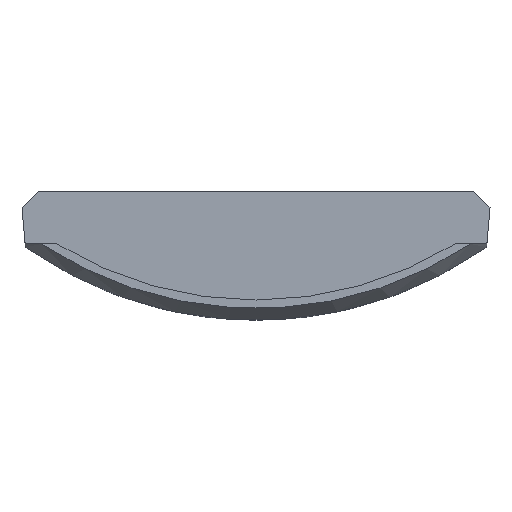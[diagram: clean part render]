
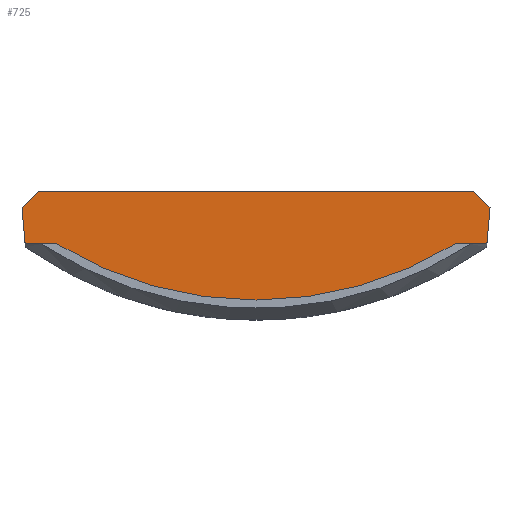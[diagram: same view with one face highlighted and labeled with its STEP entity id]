
A CAD part, top view. The second image highlights one B-rep face of the part: STEP entity #725.
In plain terms, the highlighted planar face has unit normal (0, 0, 1).
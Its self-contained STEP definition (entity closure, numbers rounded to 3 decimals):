
#33=CIRCLE('',#785,49.545);
#34=CIRCLE('',#786,47.5);
#35=CIRCLE('',#787,49.545);
#56=FACE_OUTER_BOUND('',#94,.T.);
#94=EDGE_LOOP('',(#510,#511,#512,#513,#514,#515,#516,#517,#518,#519));
#130=LINE('',#1037,#212);
#138=LINE('',#1055,#220);
#155=LINE('',#1090,#237);
#161=LINE('',#1102,#243);
#162=LINE('',#1106,#244);
#163=LINE('',#1110,#245);
#164=LINE('',#1113,#246);
#212=VECTOR('',#839,10.);
#220=VECTOR('',#851,10.);
#237=VECTOR('',#876,10.);
#243=VECTOR('',#884,10.);
#244=VECTOR('',#887,10.);
#245=VECTOR('',#890,10.);
#246=VECTOR('',#893,10.);
#294=VERTEX_POINT('',#1034);
#295=VERTEX_POINT('',#1036);
#302=VERTEX_POINT('',#1052);
#303=VERTEX_POINT('',#1054);
#322=VERTEX_POINT('',#1101);
#323=VERTEX_POINT('',#1103);
#324=VERTEX_POINT('',#1105);
#325=VERTEX_POINT('',#1107);
#326=VERTEX_POINT('',#1109);
#327=VERTEX_POINT('',#1111);
#366=EDGE_CURVE('',#295,#294,#130,.T.);
#374=EDGE_CURVE('',#303,#302,#138,.T.);
#392=EDGE_CURVE('',#295,#302,#155,.T.);
#398=EDGE_CURVE('',#294,#322,#161,.T.);
#399=EDGE_CURVE('',#323,#322,#33,.T.);
#400=EDGE_CURVE('',#324,#323,#162,.T.);
#401=EDGE_CURVE('',#325,#324,#34,.T.);
#402=EDGE_CURVE('',#325,#326,#163,.T.);
#403=EDGE_CURVE('',#327,#326,#35,.T.);
#404=EDGE_CURVE('',#303,#327,#164,.T.);
#510=ORIENTED_EDGE('',*,*,#366,.T.);
#511=ORIENTED_EDGE('',*,*,#398,.T.);
#512=ORIENTED_EDGE('',*,*,#399,.F.);
#513=ORIENTED_EDGE('',*,*,#400,.F.);
#514=ORIENTED_EDGE('',*,*,#401,.F.);
#515=ORIENTED_EDGE('',*,*,#402,.T.);
#516=ORIENTED_EDGE('',*,*,#403,.F.);
#517=ORIENTED_EDGE('',*,*,#404,.F.);
#518=ORIENTED_EDGE('',*,*,#374,.T.);
#519=ORIENTED_EDGE('',*,*,#392,.F.);
#694=PLANE('',#784);
#725=ADVANCED_FACE('',(#56),#694,.F.);
#784=AXIS2_PLACEMENT_3D('',#1100,#882,#883);
#785=AXIS2_PLACEMENT_3D('',#1104,#885,#886);
#786=AXIS2_PLACEMENT_3D('',#1108,#888,#889);
#787=AXIS2_PLACEMENT_3D('',#1112,#891,#892);
#839=DIRECTION('',(-0.707,-0.707,0.));
#851=DIRECTION('',(-0.707,0.707,0.));
#876=DIRECTION('',(1.,0.,0.));
#882=DIRECTION('center_axis',(0.,0.,-1.));
#883=DIRECTION('ref_axis',(-1.,0.,0.));
#884=DIRECTION('',(0.087,-0.996,0.));
#885=DIRECTION('center_axis',(0.,0.,-1.));
#886=DIRECTION('ref_axis',(0.,-1.,0.));
#887=DIRECTION('',(-1.,0.,0.));
#888=DIRECTION('center_axis',(0.,0.,-1.));
#889=DIRECTION('ref_axis',(0.,-1.,0.));
#890=DIRECTION('',(1.,0.,0.));
#891=DIRECTION('center_axis',(0.,0.,-1.));
#892=DIRECTION('ref_axis',(0.,-1.,0.));
#893=DIRECTION('',(-0.087,-0.996,0.));
#1034=CARTESIAN_POINT('',(-29.171,-2.5,3.45));
#1036=CARTESIAN_POINT('',(-27.171,-0.5,3.45));
#1037=CARTESIAN_POINT('',(-17.816,8.855,3.45));
#1052=CARTESIAN_POINT('',(27.171,-0.5,3.45));
#1054=CARTESIAN_POINT('',(29.171,-2.5,3.45));
#1055=CARTESIAN_POINT('',(18.816,7.855,3.45));
#1090=CARTESIAN_POINT('',(0.,-0.5,3.45));
#1100=CARTESIAN_POINT('Origin',(0.,9.75,3.45));
#1101=CARTESIAN_POINT('',(-28.793,-6.819,3.45));
#1102=CARTESIAN_POINT('',(-29.592,2.312,3.45));
#1103=CARTESIAN_POINT('',(-28.538,-7.,3.45));
#1104=CARTESIAN_POINT('Origin',(0.,33.5,3.45));
#1105=CARTESIAN_POINT('',(-24.819,-7.,3.45));
#1106=CARTESIAN_POINT('',(0.,-7.,3.45));
#1107=CARTESIAN_POINT('',(24.819,-7.,3.45));
#1108=CARTESIAN_POINT('Origin',(0.,33.5,3.45));
#1109=CARTESIAN_POINT('',(28.538,-7.,3.45));
#1110=CARTESIAN_POINT('',(0.,-7.,3.45));
#1111=CARTESIAN_POINT('',(28.793,-6.819,3.45));
#1112=CARTESIAN_POINT('Origin',(0.,33.5,3.45));
#1113=CARTESIAN_POINT('',(29.023,-4.196,3.45));
